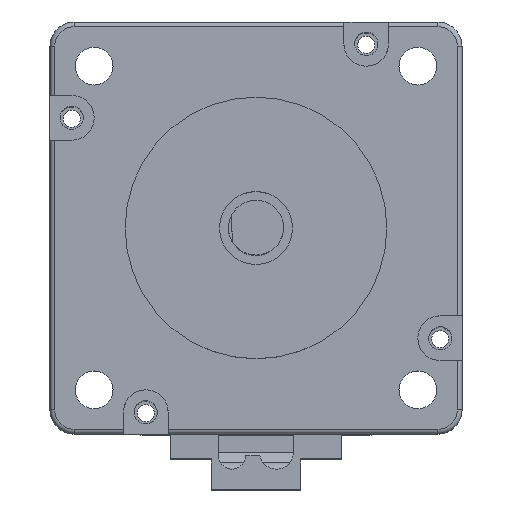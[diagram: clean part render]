
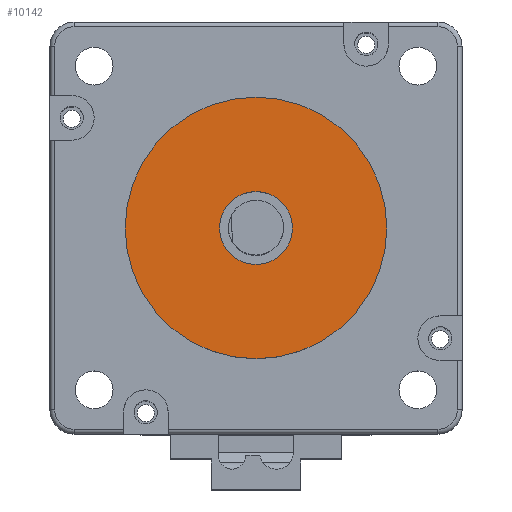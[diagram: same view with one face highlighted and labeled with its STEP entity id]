
A CAD part, top view. The second image highlights one B-rep face of the part: STEP entity #10142.
In plain terms, the highlighted planar face has unit normal (0, 0, 1).
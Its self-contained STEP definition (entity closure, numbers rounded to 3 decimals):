
#25 = CARTESIAN_POINT ( 'NONE',  ( 5.3, 0., 13.3 ) ) ;
#202 = PLANE ( 'NONE',  #12038 ) ;
#380 = DIRECTION ( 'NONE',  ( 0., 0., 1. ) ) ;
#1066 = DIRECTION ( 'NONE',  ( 1., 0., 0. ) ) ;
#1373 = CIRCLE ( 'NONE', #2774, 5.3 ) ;
#1576 = DIRECTION ( 'NONE',  ( 1., 0., 0. ) ) ;
#1678 = EDGE_LOOP ( 'NONE', ( #2180, #9082 ) ) ;
#1755 = DIRECTION ( 'NONE',  ( 0., 0., 1. ) ) ;
#2019 = EDGE_CURVE ( 'NONE', #2520, #4964, #10780, .T. ) ;
#2094 = DIRECTION ( 'NONE',  ( 0., 0., 1. ) ) ;
#2180 = ORIENTED_EDGE ( 'NONE', *, *, #2019, .T. ) ;
#2219 = EDGE_CURVE ( 'NONE', #3000, #6673, #8277, .T. ) ;
#2520 = VERTEX_POINT ( 'NONE', #5702 ) ;
#2526 = EDGE_CURVE ( 'NONE', #4964, #2520, #10318, .T. ) ;
#2774 = AXIS2_PLACEMENT_3D ( 'NONE', #5974, #3981, #6959 ) ;
#3000 = VERTEX_POINT ( 'NONE', #10613 ) ;
#3315 = ORIENTED_EDGE ( 'NONE', *, *, #10466, .F. ) ;
#3712 = EDGE_LOOP ( 'NONE', ( #8056, #3315 ) ) ;
#3981 = DIRECTION ( 'NONE',  ( 0., 0., 1. ) ) ;
#3999 = CARTESIAN_POINT ( 'NONE',  ( 0., 0., 13.3 ) ) ;
#4181 = DIRECTION ( 'NONE',  ( 1., 0., 0. ) ) ;
#4782 = AXIS2_PLACEMENT_3D ( 'NONE', #7688, #2094, #11435 ) ;
#4964 = VERTEX_POINT ( 'NONE', #11154 ) ;
#5702 = CARTESIAN_POINT ( 'NONE',  ( 19.05, 0., 13.3 ) ) ;
#5792 = CARTESIAN_POINT ( 'NONE',  ( 0., 0., 13.3 ) ) ;
#5856 = AXIS2_PLACEMENT_3D ( 'NONE', #10005, #1755, #1576 ) ;
#5974 = CARTESIAN_POINT ( 'NONE',  ( 0., 0., 13.3 ) ) ;
#6041 = FACE_OUTER_BOUND ( 'NONE', #1678, .T. ) ;
#6673 = VERTEX_POINT ( 'NONE', #25 ) ;
#6959 = DIRECTION ( 'NONE',  ( 1., 0., 0. ) ) ;
#7688 = CARTESIAN_POINT ( 'NONE',  ( 0., 0., 13.3 ) ) ;
#8056 = ORIENTED_EDGE ( 'NONE', *, *, #2219, .F. ) ;
#8277 = CIRCLE ( 'NONE', #11618, 5.3 ) ;
#8841 = FACE_BOUND ( 'NONE', #3712, .T. ) ;
#9082 = ORIENTED_EDGE ( 'NONE', *, *, #2526, .T. ) ;
#9577 = DIRECTION ( 'NONE',  ( 0., 0., 1. ) ) ;
#10005 = CARTESIAN_POINT ( 'NONE',  ( 0., 0., 13.3 ) ) ;
#10142 = ADVANCED_FACE ( 'NONE', ( #8841, #6041 ), #202, .T. ) ;
#10318 = CIRCLE ( 'NONE', #4782, 19.05 ) ;
#10466 = EDGE_CURVE ( 'NONE', #6673, #3000, #1373, .T. ) ;
#10613 = CARTESIAN_POINT ( 'NONE',  ( -5.3, 0., 13.3 ) ) ;
#10780 = CIRCLE ( 'NONE', #5856, 19.05 ) ;
#11154 = CARTESIAN_POINT ( 'NONE',  ( -19.05, 0., 13.3 ) ) ;
#11435 = DIRECTION ( 'NONE',  ( 1., 0., 0. ) ) ;
#11618 = AXIS2_PLACEMENT_3D ( 'NONE', #5792, #9577, #1066 ) ;
#12038 = AXIS2_PLACEMENT_3D ( 'NONE', #3999, #380, #4181 ) ;
